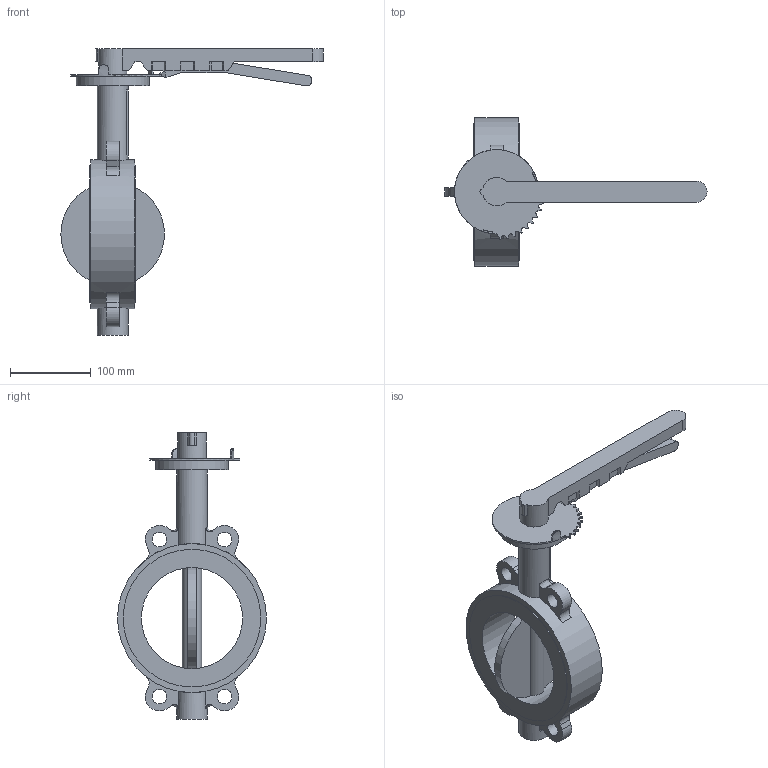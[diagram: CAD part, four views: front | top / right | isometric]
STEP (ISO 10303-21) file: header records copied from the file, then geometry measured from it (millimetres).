
FILE_DESCRIPTION(('STEP AP203'), '1');
FILE_NAME('青蜮铕 015WDN125', '', ('UNSPECIFIED'), ('UNSPECIFIED'), 'ASCON STEP Converter 1.6', 'ASCON Math Kernel', '');
FILE_SCHEMA(('CONFIG_CONTROL_DESIGN'));
Length unit declared in the file: millimetre
Bounding box: 324 x 184 x 354 mm (x, y, z)
Volume: 199502 mm3; surface area: 208545.1 mm2
Topology: 1 solids, 2 shells, 761 faces, 2251 edges, 1453 vertices
Faces by surface type: cylinder 498, plane 257, bspline 6
Full cylindrical faces by diameter (mm): 10 x4, 18 x4, 18.9 x1, 35 x1, 38 x2, 55 x1, 90 x1, 125 x1, 170 x2, 184 x1
Entity records: 33916 total; most frequent: CARTESIAN_POINT 6621, DIRECTION 4742, ORIENTED_EDGE 4405, EDGE_CURVE 2234, AXIS2_PLACEMENT_3D 1804, VERTEX_POINT 1453, LINE 1134, VECTOR 1134
